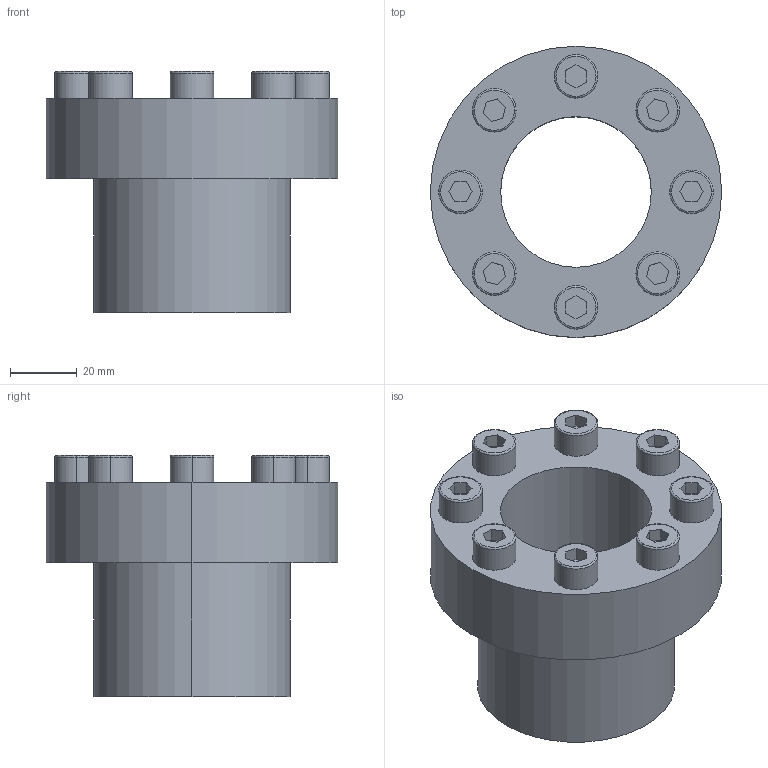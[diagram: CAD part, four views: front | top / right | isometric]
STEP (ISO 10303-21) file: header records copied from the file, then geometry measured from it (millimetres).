
FILE_DESCRIPTION (( 'STEP AP203' ), '1' );
FILE_NAME ('PL-C 45-59.STEP', '2021-10-22T08:44:32', ( '' ), ( '' ), 'SwSTEP 2.0', 'SolidWorks 2018', '' );
FILE_SCHEMA (( 'CONFIG_CONTROL_DESIGN' ));
Length unit declared in the file: millimetre
Products named in the file (1): PL-C 45-59
Bounding box: 87 x 87 x 72 mm (x, y, z)
Volume: 156983.3 mm3; surface area: 34912.9 mm2
Topology: 1 solids, 1 shells, 105 faces, 242 edges, 156 vertices
Faces by surface type: plane 67, cylinder 22, torus 16
Entity records: 3045 total; most frequent: DIRECTION 530, CARTESIAN_POINT 504, ORIENTED_EDGE 484, EDGE_CURVE 242, AXIS2_PLACEMENT_3D 182, LINE 166, VECTOR 166, VERTEX_POINT 156
